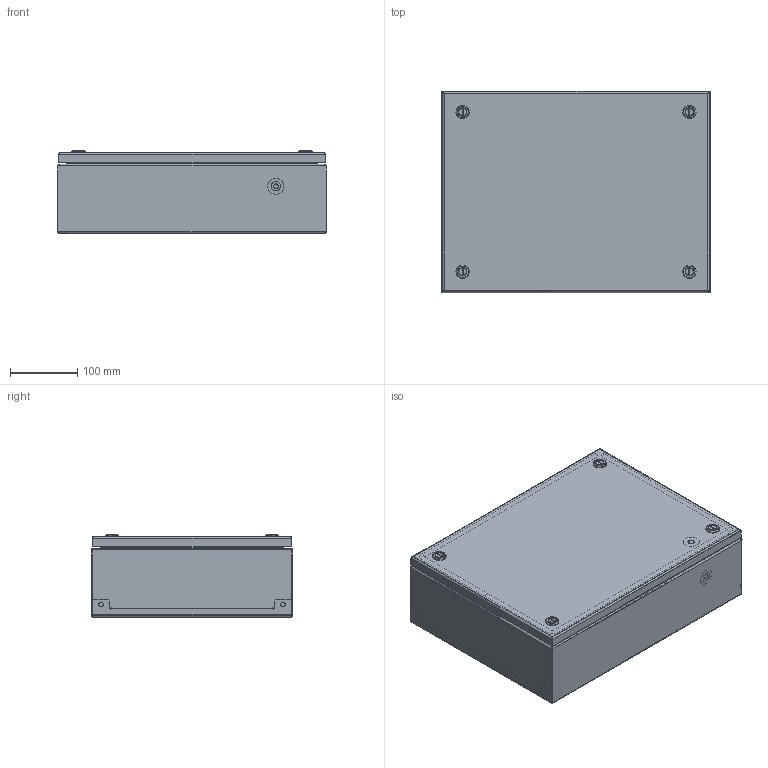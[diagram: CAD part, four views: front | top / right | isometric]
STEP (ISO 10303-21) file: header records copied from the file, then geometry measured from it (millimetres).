
FILE_DESCRIPTION (( 'STEP AP214' ), '1' );
FILE_NAME ('BSS 30.40.12 Êîðîáêà.STEP', '2022-09-19T11:39:55', ( '' ), ( '' ), 'SwSTEP 2.0', 'SolidWorks 2019', '' );
FILE_SCHEMA (( 'AUTOMOTIVE_DESIGN' ));
Length unit declared in the file: millimetre
Products named in the file (1): BSS 30.40.12 Êîðîáêà
Bounding box: 400 x 300 x 123 mm (x, y, z)
Volume: 799780.4 mm3; surface area: 1176886 mm2
Topology: 36 solids, 36 shells, 1774 faces, 4326 edges, 2692 vertices
Faces by surface type: plane 1139, cylinder 383, cone 112, bspline 88, torus 44, sphere 8
Full cylindrical faces by diameter (mm): 3.2 x38, 6 x4, 7 x6, 9 x4, 10 x1, 14 x1, 24 x2
Entity records: 85695 total; most frequent: CARTESIAN_POINT 25356, ORIENTED_EDGE 8492, DIRECTION 7835, EDGE_CURVE 4246, LINE 2855, VECTOR 2855, VERTEX_POINT 2688, AXIS2_PLACEMENT_3D 2490
